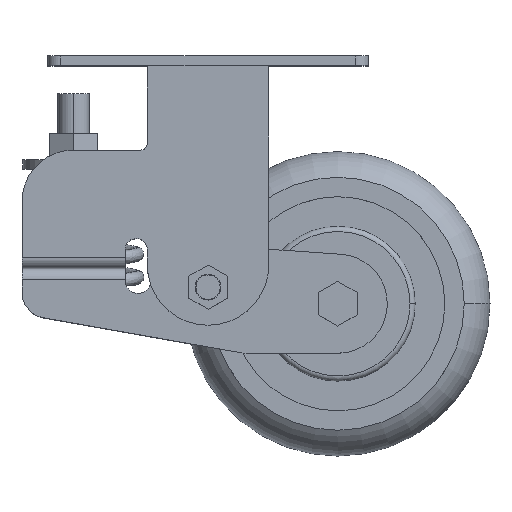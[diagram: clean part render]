
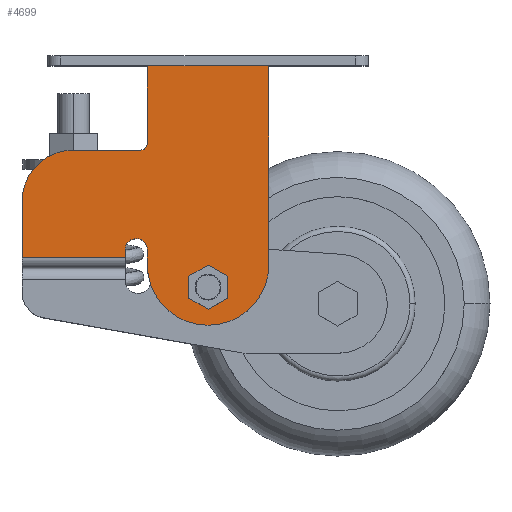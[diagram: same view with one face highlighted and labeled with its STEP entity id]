
A CAD part, top view. The second image highlights one B-rep face of the part: STEP entity #4699.
In plain terms, the highlighted planar face has unit normal (0, 0, 1).
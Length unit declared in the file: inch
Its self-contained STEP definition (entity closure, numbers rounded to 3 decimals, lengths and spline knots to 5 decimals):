
#3 = DIRECTION ( 'NONE',  ( 0., 0., -1. ) ) ;
#12 = VERTEX_POINT ( 'NONE', #2129 ) ;
#13 = CARTESIAN_POINT ( 'NONE',  ( -4.118, 3.84125, 1.671 ) ) ;
#155 = LINE ( 'NONE', #5174, #460 ) ;
#166 = CARTESIAN_POINT ( 'NONE',  ( -2.263, 3.27, 1.671 ) ) ;
#293 = EDGE_CURVE ( 'NONE', #1151, #1003, #8880, .T. ) ;
#414 = CARTESIAN_POINT ( 'NONE',  ( -5.118, 4.927, 1.671 ) ) ;
#460 = VECTOR ( 'NONE', #8499, 39.37008 ) ;
#481 = ORIENTED_EDGE ( 'NONE', *, *, #7538, .F. ) ;
#496 = CARTESIAN_POINT ( 'NONE',  ( -2.513, 3.27, 1.671 ) ) ;
#575 = CARTESIAN_POINT ( 'NONE',  ( -5.118, 7.56, 1.671 ) ) ;
#616 = LINE ( 'NONE', #4595, #10758 ) ;
#641 = EDGE_CURVE ( 'NONE', #1003, #1911, #5407, .T. ) ;
#724 = ORIENTED_EDGE ( 'NONE', *, *, #5033, .T. ) ;
#748 = EDGE_CURVE ( 'NONE', #9914, #5878, #155, .T. ) ;
#815 = CARTESIAN_POINT ( 'NONE',  ( -5.118, 5.927, 1.671 ) ) ;
#867 = LINE ( 'NONE', #4187, #5999 ) ;
#1003 = VERTEX_POINT ( 'NONE', #7296 ) ;
#1030 = EDGE_CURVE ( 'NONE', #5878, #2470, #8047, .T. ) ;
#1151 = VERTEX_POINT ( 'NONE', #9035 ) ;
#1186 = FACE_OUTER_BOUND ( 'NONE', #2143, .T. ) ;
#1241 = ORIENTED_EDGE ( 'NONE', *, *, #10362, .F. ) ;
#1455 = AXIS2_PLACEMENT_3D ( 'NONE', #414, #7068, #10257 ) ;
#1629 = VECTOR ( 'NONE', #5726, 39.37008 ) ;
#1911 = VERTEX_POINT ( 'NONE', #5691 ) ;
#2060 = ORIENTED_EDGE ( 'NONE', *, *, #1030, .T. ) ;
#2087 = ORIENTED_EDGE ( 'NONE', *, *, #7632, .T. ) ;
#2124 = CARTESIAN_POINT ( 'NONE',  ( -3.691, 4., 1.671 ) ) ;
#2129 = CARTESIAN_POINT ( 'NONE',  ( -3.816, 5.927, 1.671 ) ) ;
#2143 = EDGE_LOOP ( 'NONE', ( #481, #2589, #2060, #6571, #6450, #9893, #7149, #6781, #2087, #8824, #3460, #724 ) ) ;
#2183 = DIRECTION ( 'NONE',  ( 0., 0., 1. ) ) ;
#2470 = VERTEX_POINT ( 'NONE', #2124 ) ;
#2492 = CIRCLE ( 'NONE', #7536, 0.25 ) ;
#2589 = ORIENTED_EDGE ( 'NONE', *, *, #748, .T. ) ;
#2689 = EDGE_CURVE ( 'NONE', #6904, #1151, #867, .T. ) ;
#2737 = VERTEX_POINT ( 'NONE', #815 ) ;
#2835 = DIRECTION ( 'NONE',  ( 1., 0., 0. ) ) ;
#3099 = DIRECTION ( 'NONE',  ( -1., 0., 0. ) ) ;
#3203 = VERTEX_POINT ( 'NONE', #7709 ) ;
#3219 = CARTESIAN_POINT ( 'NONE',  ( -6.118, 4.927, 1.671 ) ) ;
#3310 = CARTESIAN_POINT ( 'NONE',  ( -1.335, 3.711, 1.671 ) ) ;
#3327 = DIRECTION ( 'NONE',  ( -1., 0., 0. ) ) ;
#3372 = DIRECTION ( 'NONE',  ( 1., 0., 0. ) ) ;
#3460 = ORIENTED_EDGE ( 'NONE', *, *, #9957, .T. ) ;
#3719 = EDGE_LOOP ( 'NONE', ( #6271, #1241 ) ) ;
#3958 = VECTOR ( 'NONE', #3099, 39.37008 ) ;
#4046 = DIRECTION ( 'NONE',  ( 0., 0., 1. ) ) ;
#4061 = CIRCLE ( 'NONE', #6840, 1.178 ) ;
#4187 = CARTESIAN_POINT ( 'NONE',  ( -1.335, 4.927, 1.671 ) ) ;
#4237 = CARTESIAN_POINT ( 'NONE',  ( -6.118, 4.927, 1.671 ) ) ;
#4570 = CARTESIAN_POINT ( 'NONE',  ( -2.513, 3.711, 1.671 ) ) ;
#4579 = EDGE_CURVE ( 'NONE', #2470, #3203, #10760, .T. ) ;
#4595 = CARTESIAN_POINT ( 'NONE',  ( -5.118, 5.927, 1.671 ) ) ;
#4699 = ADVANCED_FACE ( 'NONE', ( #9327, #1186 ), #5379, .F. ) ;
#4795 = EDGE_CURVE ( 'NONE', #3203, #6904, #4061, .T. ) ;
#4864 = CARTESIAN_POINT ( 'NONE',  ( -6.118, 3.84125, 1.671 ) ) ;
#4888 = DIRECTION ( 'NONE',  ( -1., 0., 0. ) ) ;
#4910 = CARTESIAN_POINT ( 'NONE',  ( -6.118, 3.84125, 1.671 ) ) ;
#5033 = EDGE_CURVE ( 'NONE', #10576, #7501, #9886, .T. ) ;
#5174 = CARTESIAN_POINT ( 'NONE',  ( -4.118, 4.927, 1.671 ) ) ;
#5293 = CIRCLE ( 'NONE', #8260, 0.25 ) ;
#5326 = VECTOR ( 'NONE', #6231, 39.37008 ) ;
#5379 = PLANE ( 'NONE',  #1455 ) ;
#5407 = LINE ( 'NONE', #5465, #5326 ) ;
#5465 = CARTESIAN_POINT ( 'NONE',  ( -3.691, 4.927, 1.671 ) ) ;
#5663 = CARTESIAN_POINT ( 'NONE',  ( -3.9045, 4., 1.671 ) ) ;
#5687 = CARTESIAN_POINT ( 'NONE',  ( -3.816, 6.052, 1.671 ) ) ;
#5691 = CARTESIAN_POINT ( 'NONE',  ( -3.691, 6.052, 1.671 ) ) ;
#5698 = CARTESIAN_POINT ( 'NONE',  ( -5.118, 4.927, 1.671 ) ) ;
#5726 = DIRECTION ( 'NONE',  ( 0., -1., 0. ) ) ;
#5878 = VERTEX_POINT ( 'NONE', #10399 ) ;
#5999 = VECTOR ( 'NONE', #10762, 39.37008 ) ;
#6231 = DIRECTION ( 'NONE',  ( 0., -1., 0. ) ) ;
#6271 = ORIENTED_EDGE ( 'NONE', *, *, #6565, .F. ) ;
#6390 = DIRECTION ( 'NONE',  ( 0., 0., 1. ) ) ;
#6450 = ORIENTED_EDGE ( 'NONE', *, *, #4795, .T. ) ;
#6565 = EDGE_CURVE ( 'NONE', #7763, #7030, #5293, .T. ) ;
#6571 = ORIENTED_EDGE ( 'NONE', *, *, #4579, .T. ) ;
#6781 = ORIENTED_EDGE ( 'NONE', *, *, #641, .T. ) ;
#6840 = AXIS2_PLACEMENT_3D ( 'NONE', #4570, #2183, #7911 ) ;
#6904 = VERTEX_POINT ( 'NONE', #3310 ) ;
#7030 = VERTEX_POINT ( 'NONE', #7670 ) ;
#7068 = DIRECTION ( 'NONE',  ( 0., 0., -1. ) ) ;
#7149 = ORIENTED_EDGE ( 'NONE', *, *, #293, .T. ) ;
#7197 = VECTOR ( 'NONE', #9164, 39.37008 ) ;
#7296 = CARTESIAN_POINT ( 'NONE',  ( -3.691, 7.56, 1.671 ) ) ;
#7376 = DIRECTION ( 'NONE',  ( -1., 0., 0. ) ) ;
#7427 = LINE ( 'NONE', #4910, #9679 ) ;
#7501 = VERTEX_POINT ( 'NONE', #4864 ) ;
#7526 = DIRECTION ( 'NONE',  ( -1., 0., 0. ) ) ;
#7536 = AXIS2_PLACEMENT_3D ( 'NONE', #496, #6390, #2835 ) ;
#7538 = EDGE_CURVE ( 'NONE', #9914, #7501, #7427, .T. ) ;
#7582 = AXIS2_PLACEMENT_3D ( 'NONE', #5687, #3, #3327 ) ;
#7632 = EDGE_CURVE ( 'NONE', #1911, #12, #7754, .T. ) ;
#7670 = CARTESIAN_POINT ( 'NONE',  ( -2.763, 3.27, 1.671 ) ) ;
#7709 = CARTESIAN_POINT ( 'NONE',  ( -3.691, 3.711, 1.671 ) ) ;
#7754 = CIRCLE ( 'NONE', #7582, 0.125 ) ;
#7763 = VERTEX_POINT ( 'NONE', #166 ) ;
#7911 = DIRECTION ( 'NONE',  ( -1., 0., 0. ) ) ;
#7934 = DIRECTION ( 'NONE',  ( -1., 0., 0. ) ) ;
#8047 = CIRCLE ( 'NONE', #8924, 0.2135 ) ;
#8233 = AXIS2_PLACEMENT_3D ( 'NONE', #5698, #4046, #7376 ) ;
#8260 = AXIS2_PLACEMENT_3D ( 'NONE', #9938, #9889, #3372 ) ;
#8499 = DIRECTION ( 'NONE',  ( 0., 1., 0. ) ) ;
#8585 = EDGE_CURVE ( 'NONE', #12, #2737, #616, .T. ) ;
#8783 = CIRCLE ( 'NONE', #8233, 1. ) ;
#8824 = ORIENTED_EDGE ( 'NONE', *, *, #8585, .T. ) ;
#8880 = LINE ( 'NONE', #575, #3958 ) ;
#8924 = AXIS2_PLACEMENT_3D ( 'NONE', #5663, #8938, #4888 ) ;
#8938 = DIRECTION ( 'NONE',  ( 0., 0., -1. ) ) ;
#9035 = CARTESIAN_POINT ( 'NONE',  ( -1.335, 7.56, 1.671 ) ) ;
#9164 = DIRECTION ( 'NONE',  ( 0., -1., 0. ) ) ;
#9327 = FACE_BOUND ( 'NONE', #3719, .T. ) ;
#9679 = VECTOR ( 'NONE', #7526, 39.37008 ) ;
#9886 = LINE ( 'NONE', #4237, #1629 ) ;
#9889 = DIRECTION ( 'NONE',  ( 0., 0., 1. ) ) ;
#9893 = ORIENTED_EDGE ( 'NONE', *, *, #2689, .T. ) ;
#9914 = VERTEX_POINT ( 'NONE', #13 ) ;
#9938 = CARTESIAN_POINT ( 'NONE',  ( -2.513, 3.27, 1.671 ) ) ;
#9957 = EDGE_CURVE ( 'NONE', #2737, #10576, #8783, .T. ) ;
#9984 = CARTESIAN_POINT ( 'NONE',  ( -3.691, 4.927, 1.671 ) ) ;
#10257 = DIRECTION ( 'NONE',  ( -1., 0., 0. ) ) ;
#10362 = EDGE_CURVE ( 'NONE', #7030, #7763, #2492, .T. ) ;
#10399 = CARTESIAN_POINT ( 'NONE',  ( -4.118, 4., 1.671 ) ) ;
#10576 = VERTEX_POINT ( 'NONE', #3219 ) ;
#10758 = VECTOR ( 'NONE', #7934, 39.37008 ) ;
#10760 = LINE ( 'NONE', #9984, #7197 ) ;
#10762 = DIRECTION ( 'NONE',  ( 0., 1., 0. ) ) ;
